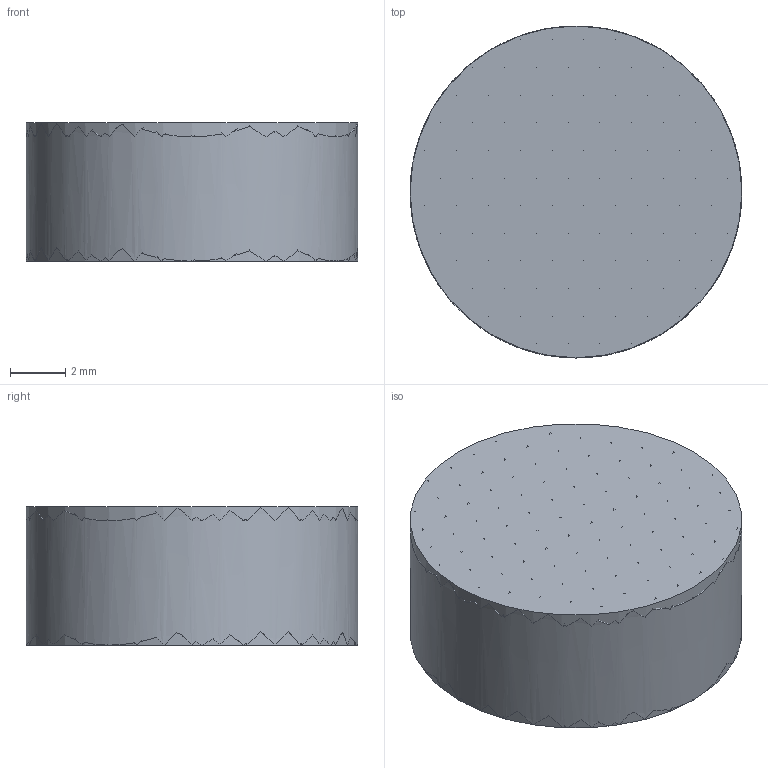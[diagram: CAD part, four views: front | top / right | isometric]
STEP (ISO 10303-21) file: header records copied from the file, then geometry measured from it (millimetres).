
FILE_DESCRIPTION(/* description */ ('Alibre Inc.'),/* implementation_level */ '2;1');
FILE_NAME(/* name */ 'export0',/* time_stamp */ '2010-04-14T10:48:12+02:00',/* author */ (''),/* organization */ (''),/* preprocessor_version */ 'ST-DEVELOPER v10',/* originating_system */ 'Alibre',/* authorisation */ '');
FILE_SCHEMA (('ALIBRE_SCHEMA','CONFIG_CONTROL_DESIGN'));
Length unit declared in the file: centimetre
Products named in the file (3): ID_1; ID_2
Bounding box: 12 x 12 x 5 mm (x, y, z)
Surface area: 904.2 mm2
Topology: 2 solids, 2 shells, 852 faces, 1416 edges, 568 vertices
Faces by surface type: plane 850, cylinder 2
Full cylindrical faces by diameter (mm): 12 x2
Entity records: 17312 total; most frequent: ORIENTED_EDGE 2828, PERSISTANTTOPOLOGYATTRIBUTE 2232, CARTESIAN_POINT 1999, DIRECTION 1580, EDGE_CURVE 1414, VECTOR 1076, LINE 1052, EDGE_LOOP 854
